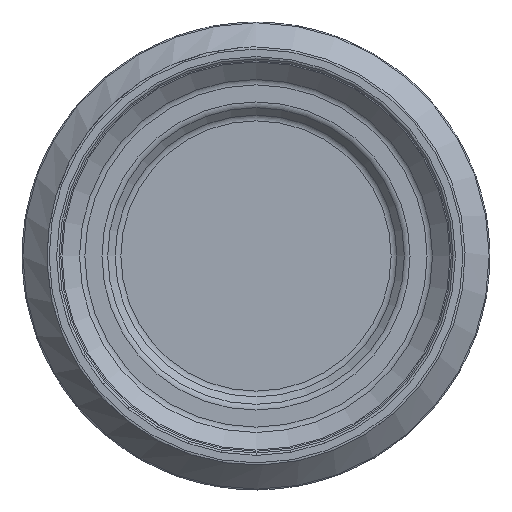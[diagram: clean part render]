
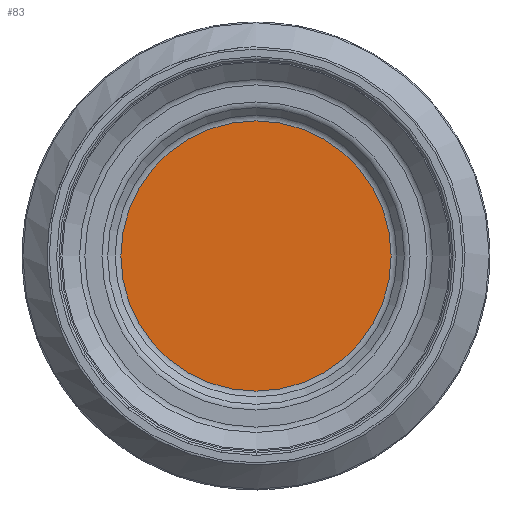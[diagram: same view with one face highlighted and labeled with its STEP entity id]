
A CAD part, left-side view. The second image highlights one B-rep face of the part: STEP entity #83.
In plain terms, the highlighted planar face has unit normal (-1, 0, 0).
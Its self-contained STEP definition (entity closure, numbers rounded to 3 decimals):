
#74=FACE_OUTER_BOUND('',#158,.T.);
#77=PLANE('',#328);
#83=ADVANCED_FACE('',(#74),#77,.F.);
#158=EDGE_LOOP('',(#204));
#204=ORIENTED_EDGE('',*,*,#273,.T.);
#250=VERTEX_POINT('',#478);
#273=EDGE_CURVE('',#250,#250,#296,.T.);
#296=CIRCLE('',#327,33.172);
#327=AXIS2_PLACEMENT_3D('',#477,#381,#382);
#328=AXIS2_PLACEMENT_3D('',#479,#383,#384);
#381=DIRECTION('',(-1.,0.,0.));
#382=DIRECTION('',(0.,0.,-1.));
#383=DIRECTION('',(1.,0.,0.));
#384=DIRECTION('',(0.,0.,-1.));
#477=CARTESIAN_POINT('',(8.,0.,0.));
#478=CARTESIAN_POINT('',(8.,0.,-33.172));
#479=CARTESIAN_POINT('',(8.,0.,0.));
